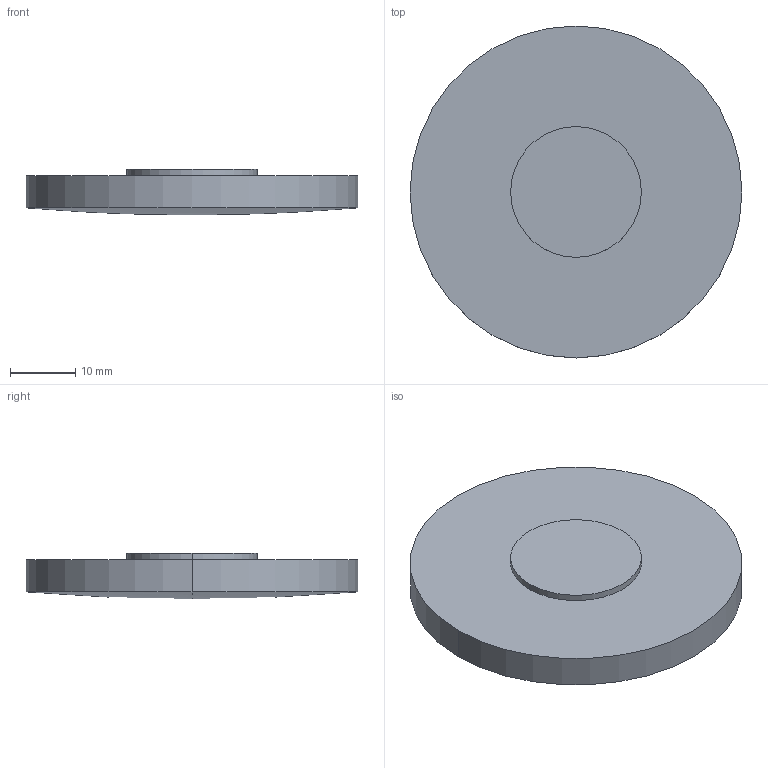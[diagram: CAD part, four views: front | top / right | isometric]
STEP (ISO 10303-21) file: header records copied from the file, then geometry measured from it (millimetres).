
FILE_DESCRIPTION(('STEP AP214'),'1');
FILE_NAME('LLF-51760.STEP','2020-03-09T17:41:32',(' '),(' '),'Spatial InterOp 3D',' ',' ');
FILE_SCHEMA(('AUTOMOTIVE_DESIGN { 1 0 10303 214 1 1 1 1 }'));
Length unit declared in the file: millimetre
Products named in the file (1): 1
Bounding box: 50.8 x 50.8 x 7 mm (x, y, z)
Volume: 11394.4 mm3; surface area: 5535.7 mm2
Topology: 2 solids, 2 shells, 9 faces, 16 edges, 9 vertices
Faces by surface type: cylinder 4, plane 3, sphere 2
Entity records: 229 total; most frequent: DIRECTION 46, CARTESIAN_POINT 34, ORIENTED_EDGE 28, AXIS2_PLACEMENT_3D 21, EDGE_CURVE 14, CIRCLE 10, ADVANCED_FACE 9, FACE_OUTER_BOUND 9
